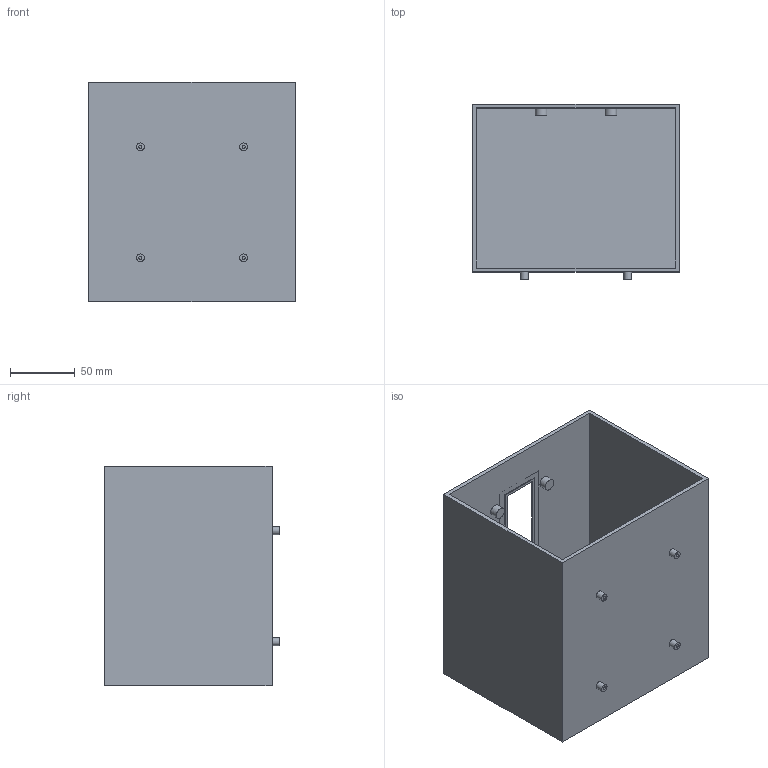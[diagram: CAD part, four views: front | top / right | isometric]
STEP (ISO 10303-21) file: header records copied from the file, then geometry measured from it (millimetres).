
FILE_DESCRIPTION(('Open CASCADE Model'),'2;1');
FILE_NAME('Open CASCADE Shape Model','2026-07-25T17:38:06',('Author'),( 'Open CASCADE'),'Open CASCADE STEP processor 7.9','build123d', 'Unknown');
FILE_SCHEMA(('AUTOMOTIVE_DESIGN { 1 0 10303 214 1 1 1 1 }'));
Length unit declared in the file: millimetre
Products named in the file (1): COMPOUND
Bounding box: 160 x 136 x 170 mm (x, y, z)
Volume: 336079.7 mm3; surface area: 230403.6 mm2
Topology: 1 solids, 1 shells, 588 faces, 1569 edges, 1046 vertices
Faces by surface type: extrusion 335, plane 237, cylinder 16
Full cylindrical faces by diameter (mm): 2.5 x8, 6 x4, 9 x4
Entity records: 45114 total; most frequent: CARTESIAN_POINT 17174, DIRECTION 3551, ORIENTED_EDGE 3138, PCURVE 3138, DEFINITIONAL_REPRESENTATION 3138, VECTOR 2959, LINE 2624, B_SPLINE_CURVE_WITH_KNOTS 2354
